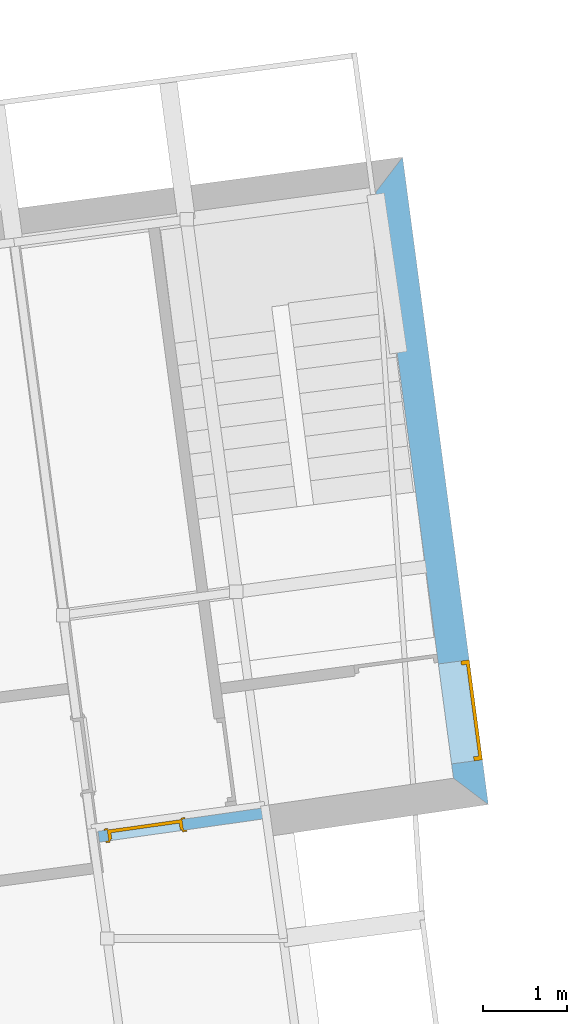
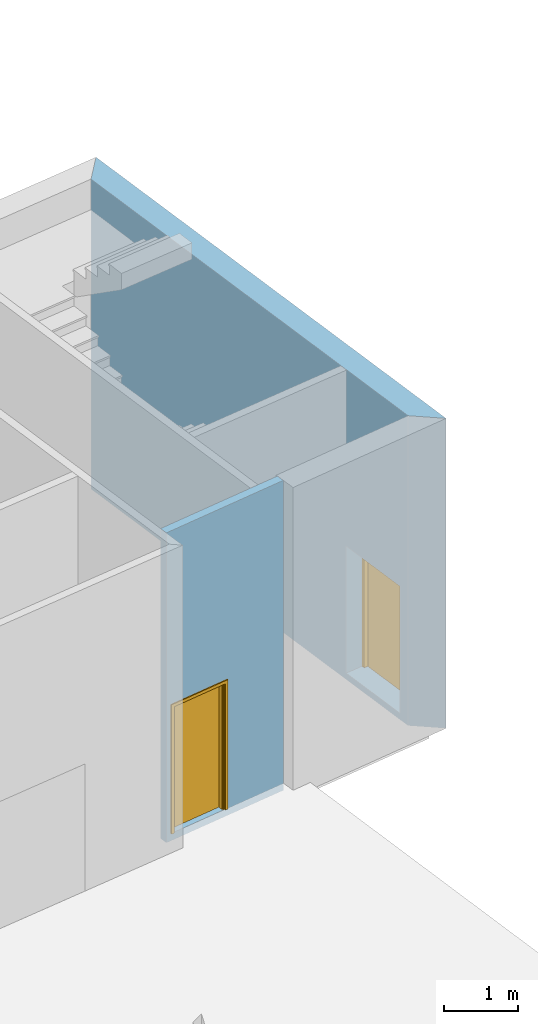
# One storey, part 35 of 40: 2 doors, 2 openings, plus 2 elements that do not belong to this part.
"""IFC2X3 building model written with IfcOpenShell, lengths in metres."""

from ifc_helpers import new_model, entity, si_unit, converted_unit, money_unit, direction, frame, origin_with_axes, origin_2d_with_axis, place, context, subcontext, project, spatial, polyline, rectangle, outline, extrude, faceted_brep, source, transform, mapped, material, material_list, layer, layer_set, layer_usage, type_object, element, fill, save


model = new_model("IFC2X3")

# Units and contexts
model_context = context("Model", 3, precision=1e-05, world=origin_with_axes(), true_north=direction((0.0, 1.0)))
body_context = subcontext(model_context, "Body", "Model", "MODEL_VIEW")
ifc_project = project(units=[si_unit("LENGTHUNIT", "METRE"), si_unit("AREAUNIT", "SQUARE_METRE"), si_unit("VOLUMEUNIT", "CUBIC_METRE"), converted_unit("PLANEANGLEUNIT", "DEGREE", entity("IfcPlaneAngleMeasure", 0.0174532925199), si_unit("PLANEANGLEUNIT", "RADIAN"), dimensions=[0, 0, 0, 0, 0, 0, 0]), si_unit("SOLIDANGLEUNIT", "STERADIAN"), money_unit("EUR"), converted_unit("TIMEUNIT", "Year", entity("IfcTimeMeasure", 31556926.0), si_unit("TIMEUNIT", "SECOND"), dimensions=[0, 0, 0, 0, 0, 0, 0]), si_unit("MASSUNIT", "GRAM"), si_unit("THERMODYNAMICTEMPERATUREUNIT", "DEGREE_CELSIUS"), si_unit("LUMINOUSINTENSITYUNIT", "LUMEN")], contexts=[model_context])

# Site, building, storey
site_placement = place(None, origin_with_axes())
site = spatial("IfcSite", under=ifc_project, at=site_placement, Name="Undefined", CompositionType="ELEMENT")
building_placement = place(site_placement, origin_with_axes())
building = spatial("IfcBuilding", under=site, at=building_placement, Name="Undefined", CompositionType="ELEMENT")
storey_placement = place(building_placement, origin_with_axes())
storey = spatial("IfcBuildingStorey", under=building, at=storey_placement, Name="Rez de chauss\x8ee", CompositionType="ELEMENT", Elevation=0.0)

# Wall, opening, door
ifc_material_1 = material(Name="Finition int - Enduit pl\x89tre")
ifc_layer_1 = layer(ifc_material_1, 0.015, ventilated="UNKNOWN")
ifc_material_2 = material(Name="Struct. - Parpaing b\x8eton")
ifc_layer_2 = layer(ifc_material_2, 0.1, ventilated="UNKNOWN")
ifc_layer_3 = layer(ifc_material_1, 0.015, ventilated="UNKNOWN")
ifc_layer_set_1 = layer_set([ifc_layer_1, ifc_layer_2, ifc_layer_3], Name="0.0-Cloison: parpaing + pl\x89tre 2 faces copie")
ifc_layer_usage_1 = layer_usage(ifc_layer_set_1, "AXIS2", "NEGATIVE", 0.065)
wall_type_1 = type_object("IfcWallType", Name="0.0-Cloison: parpaing + pl\x89tre 2 faces copie 130", PredefinedType="NOTDEFINED")
wall_1_placement = place(storey_placement, frame((65.7020913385, 20.0943082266, 0.0), z_axis=(0.0, 0.0, 1.0), x_axis=(-0.990097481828, -0.140381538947, 0.0)))
wall_1 = element("IfcWallStandardCase", 1, at=wall_1_placement, inside=storey, type_object=wall_type_1, material=ifc_layer_usage_1, Name="Wall_Int_06", context=body_context, shape_type="SweptSolid", body=[
    extrude(outline(polyline([(0.0, -0.065), (2.00739739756, -0.065), (2.00858857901, 0.065), (0.0, 0.065), (0.0, -0.065)])), origin_with_axes(), (0.0, 0.0, 1.0), 5.12),
])
opening_1_placement = place(wall_1_placement, frame((1.44758118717, 0.0, 0.12), z_axis=(0.0, 0.0, 1.0), x_axis=(1.0, 0.0, 0.0)))
opening_1 = element("IfcOpeningElement", 2, at=opening_1_placement, cuts=wall_1, Name="DOOR_1000", context=body_context, shape_type="SweptSolid", body=[
    extrude(rectangle(XDim=0.9, YDim=2.1, at=origin_2d_with_axis()), frame((0.0, 0.13, 1.05), z_axis=(0.0, -1.0, 0.0), x_axis=(-1.0, 0.0, 0.0)), (0.0, 0.0, 1.0), 0.39),
    extrude(rectangle(XDim=0.974, YDim=2.137, at=origin_2d_with_axis()), frame((0.0, 0.195, 1.0685), z_axis=(0.0, -1.0, 0.0), x_axis=(-1.0, 0.0, 0.0)), (0.0, 0.0, 1.0), 0.13),
    extrude(rectangle(XDim=0.974, YDim=2.137, at=origin_2d_with_axis()), frame((0.0, -0.195, 1.0685), z_axis=(0.0, 1.0, 0.0), x_axis=(-1.0, 0.0, 0.0)), (0.0, 0.0, 1.0), 0.13),
])
ifc_material_3 = material(Name="Background Fill-International")
ifc_material_4 = material(Name="Air Space")
ifc_material_5 = material(Name="Foreground Fill-International")
ifc_material_6 = material(Name="07 | Insulation Rigid")
ifc_material_list_1 = material_list([ifc_material_3, ifc_material_4, ifc_material_5, ifc_material_3, ifc_material_3, ifc_material_3, ifc_material_3, ifc_material_6, ifc_material_3, ifc_material_3, ifc_material_3, ifc_material_3, ifc_material_4, ifc_material_3, ifc_material_3, ifc_material_3])
door_style_1 = type_object("IfcDoorStyle", Name="Porte 18", ConstructionType="NOTDEFINED", OperationType="SINGLE_SWING_RIGHT", ParameterTakesPrecedence=False, Sizeable=False)
shared_shape_1 = source(origin_with_axes(), body_context, "Body", "Brep", [
    faceted_brep([(-0.45, -0.115, 0.0), (-0.425, -0.115, 0.0), (-0.425, -0.13, 0.0), (-0.45, -0.13, 0.0), (-0.45, -0.115, 2.1), (-0.425, -0.115, 2.075), (-0.425, -0.13, 2.075), (-0.45, -0.13, 2.1)], [[[0, 1, 2, 3]], [[0, 4, 5, 1]], [[1, 5, 6, 2]], [[3, 2, 6, 7]], [[4, 0, 3, 7]], [[5, 4, 7, 6]]]),
    faceted_brep([(0.45, -0.115, 2.1), (0.425, -0.115, 2.075), (0.425, -0.13, 2.075), (0.45, -0.13, 2.1), (0.45, -0.115, 0.0), (0.425, -0.115, 0.0), (0.425, -0.13, 0.0), (0.45, -0.13, 0.0)], [[[0, 1, 2, 3]], [[0, 4, 5, 1]], [[1, 5, 6, 2]], [[3, 2, 6, 7]], [[4, 0, 3, 7]], [[5, 4, 7, 6]]]),
    faceted_brep([(-0.425, -0.115, 2.075), (0.425, -0.115, 2.075), (0.425, -0.13, 2.075), (-0.425, -0.13, 2.075), (-0.45, -0.115, 2.1), (0.45, -0.115, 2.1), (0.45, -0.13, 2.1), (-0.45, -0.13, 2.1)], [[[0, 1, 2, 3]], [[0, 4, 5, 1]], [[1, 5, 6, 2]], [[3, 2, 6, 7]], [[4, 0, 3, 7]], [[5, 4, 7, 6]]]),
    faceted_brep([(-0.487, -0.149, 0.0), (-0.487, -0.13, 0.0), (-0.437, -0.13, 0.0), (-0.437, -0.149, 0.0), (-0.487, -0.149, 2.137), (-0.487, -0.13, 2.137), (-0.437, -0.13, 2.087), (-0.437, -0.149, 2.087)], [[[0, 1, 2, 3]], [[4, 5, 1, 0]], [[1, 5, 6, 2]], [[3, 2, 6, 7]], [[0, 3, 7, 4]], [[7, 6, 5, 4]]]),
    faceted_brep([(0.487, -0.149, 2.137), (0.487, -0.13, 2.137), (0.437, -0.13, 2.087), (0.437, -0.149, 2.087), (0.487, -0.149, 0.0), (0.487, -0.13, 0.0), (0.437, -0.13, 0.0), (0.437, -0.149, 0.0)], [[[0, 1, 2, 3]], [[4, 5, 1, 0]], [[1, 5, 6, 2]], [[3, 2, 6, 7]], [[0, 3, 7, 4]], [[7, 6, 5, 4]]]),
    faceted_brep([(-0.487, -0.149, 2.137), (-0.487, -0.13, 2.137), (-0.437, -0.13, 2.087), (-0.437, -0.149, 2.087), (0.487, -0.149, 2.137), (0.487, -0.13, 2.137), (0.437, -0.13, 2.087), (0.437, -0.149, 2.087)], [[[0, 1, 2, 3]], [[4, 5, 1, 0]], [[1, 5, 6, 2]], [[3, 2, 6, 7]], [[0, 3, 7, 4]], [[7, 6, 5, 4]]]),
    faceted_brep([(-0.487, 0.019, 0.0), (-0.437, 0.019, 0.0), (-0.437, 0.0, 0.0), (-0.487, 0.0, 0.0), (-0.487, 0.019, 2.137), (-0.437, 0.019, 2.087), (-0.437, 0.0, 2.087), (-0.487, 0.0, 2.137)], [[[0, 1, 2, 3]], [[0, 4, 5, 1]], [[1, 5, 6, 2]], [[3, 2, 6, 7]], [[4, 0, 3, 7]], [[5, 4, 7, 6]]]),
    faceted_brep([(0.487, 0.019, 2.137), (0.437, 0.019, 2.087), (0.437, 0.0, 2.087), (0.487, 0.0, 2.137), (0.487, 0.019, 0.0), (0.437, 0.019, 0.0), (0.437, 0.0, 0.0), (0.487, 0.0, 0.0)], [[[0, 1, 2, 3]], [[0, 4, 5, 1]], [[1, 5, 6, 2]], [[3, 2, 6, 7]], [[4, 0, 3, 7]], [[5, 4, 7, 6]]]),
    faceted_brep([(-0.487, 0.019, 2.137), (-0.437, 0.019, 2.087), (-0.437, 0.0, 2.087), (-0.487, 0.0, 2.137), (0.487, 0.019, 2.137), (0.437, 0.019, 2.087), (0.437, 0.0, 2.087), (0.487, 0.0, 2.137)], [[[0, 1, 2, 3]], [[0, 4, 5, 1]], [[1, 5, 6, 2]], [[3, 2, 6, 7]], [[4, 0, 3, 7]], [[5, 4, 7, 6]]]),
    faceted_brep([(-0.41, -0.04, 0.0), (-0.41, -0.04, 2.06), (-0.41, -0.115, 2.06), (-0.41, -0.115, 0.0), (-0.422, -0.04, 2.06), (-0.422, -0.04, 0.0), (-0.422, 0.0, 2.06), (-0.45, 0.0, 2.06), (-0.45, -0.115, 2.06), (-0.45, -0.115, 0.0), (-0.45, 0.0, 0.0), (-0.422, 0.0, 0.0)], [[[0, 1, 2, 3]], [[4, 1, 0, 5]], [[4, 6, 7, 8, 2, 1]], [[8, 9, 3, 2]], [[5, 0, 3, 9, 10, 11]], [[6, 4, 5, 11]], [[6, 11, 10, 7]], [[8, 7, 10, 9]]]),
    faceted_brep([(0.422, -0.04, 2.06), (0.41, -0.04, 2.06), (0.41, -0.115, 2.06), (0.45, -0.115, 2.06), (0.45, 0.0, 2.06), (0.422, 0.0, 2.06), (0.422, -0.04, 0.0), (0.41, -0.04, 0.0), (0.41, -0.115, 0.0), (0.45, -0.115, 0.0), (0.45, 0.0, 0.0), (0.422, 0.0, 0.0)], [[[0, 1, 2, 3, 4, 5]], [[1, 0, 6, 7]], [[1, 7, 8, 2]], [[8, 9, 3, 2]], [[9, 10, 4, 3]], [[11, 5, 4, 10]], [[0, 5, 11, 6]], [[6, 11, 10, 9, 8, 7]]]),
    faceted_brep([(-0.422, 0.0, 2.072), (-0.422, 0.0, 2.06), (-0.45, 0.0, 2.06), (-0.45, 0.0, 2.1), (0.45, 0.0, 2.1), (0.45, 0.0, 2.06), (0.422, 0.0, 2.06), (0.422, 0.0, 2.072), (-0.422, -0.04, 2.072), (-0.422, -0.04, 2.06), (-0.41, -0.04, 2.06), (-0.41, -0.115, 2.06), (-0.45, -0.115, 2.06), (-0.45, -0.115, 2.1), (0.45, -0.115, 2.1), (0.45, -0.115, 2.06), (0.422, -0.04, 2.06), (0.41, -0.115, 2.06), (0.41, -0.04, 2.06), (0.422, -0.04, 2.072)], [[[0, 1, 2, 3, 4, 5, 6, 7]], [[1, 0, 8, 9]], [[9, 10, 11, 12, 2, 1]], [[13, 3, 2, 12]], [[14, 4, 3, 13]], [[15, 5, 4, 14]], [[16, 6, 5, 15, 17, 18]], [[7, 6, 16, 19]], [[0, 7, 19, 8]], [[16, 18, 10, 9, 8, 19]], [[10, 18, 17, 11]], [[14, 13, 12, 11, 17, 15]]]),
    faceted_brep([(0.422, 0.0, 0.0), (0.422, -0.04, 0.0), (-0.422, -0.04, 0.0), (-0.422, 0.0, 0.0), (0.422, 0.0, 2.072), (0.422, -0.04, 2.072), (-0.422, -0.04, 2.072), (-0.422, 0.0, 2.072)], [[[0, 1, 2, 3]], [[4, 5, 1, 0]], [[1, 5, 6, 2]], [[3, 2, 6, 7]], [[0, 3, 7, 4]], [[7, 6, 5, 4]]]),
])
door_1_placement = place(opening_1_placement, frame((0.45, 0.0, 0.0), z_axis=(0.0, 0.0, 1.0), x_axis=(-1.0, 0.0, 0.0)))
door_1 = element("IfcDoor", 3, at=door_1_placement, inside=storey, type_object=door_style_1, material=ifc_material_list_1, Name="DOOR_1000", ObjectType="DOOR", OverallHeight=2.1, OverallWidth=0.9, context=body_context, shape_type="MappedRepresentation", body=[
    mapped(shared_shape_1, transform((0.45, 0.065, 0.0))),
])
fill(opening_1, door_1)

ifc_material_7 = material(Name="Finition ext - Cr\x8epis")
ifc_layer_4 = layer(ifc_material_7, 0.015, ventilated="UNKNOWN")
ifc_material_8 = material(Name="Isolation - Fibres de bois")
ifc_layer_5 = layer(ifc_material_8, 0.16, ventilated="UNKNOWN")
ifc_material_9 = material(Name="Struct. - B.A. banch\x8e")
ifc_layer_6 = layer(ifc_material_9, 0.18, ventilated="UNKNOWN")
ifc_layer_7 = layer(ifc_material_1, 0.015, ventilated="UNKNOWN")
ifc_layer_set_2 = layer_set([ifc_layer_4, ifc_layer_5, ifc_layer_6, ifc_layer_7], Name="1.2-Mur ext: rev\x8et ext + isol ext + ma\x8donnerie + enduit")
ifc_layer_usage_2 = layer_usage(ifc_layer_set_2, "AXIS2", "POSITIVE", 0.0)
wall_type_2 = type_object("IfcWallType", Name="1.2-Mur ext: rev\x8et ext + isol ext + ma\x8donnerie + enduit 370", PredefinedType="NOTDEFINED")
wall_2_placement = place(storey_placement, frame((68.3507482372, 20.1953635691, 0.0), z_axis=(0.0, 0.0, 1.0), x_axis=(-0.131283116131, 0.991344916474, 0.0)))
wall_2 = element("IfcWallStandardCase", 4, at=wall_2_placement, inside=storey, type_object=wall_type_2, material=ifc_layer_usage_2, Name="ExtWall_01", ObjectType="WALL", context=body_context, shape_type="SweptSolid", body=[
    extrude(outline(polyline([(0.0, 0.0), (7.77319047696, 0.0), (7.4030247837, 0.37), (0.365474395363, 0.37), (0.0, 0.0)])), origin_with_axes(), (0.0, 0.0, 1.0), 5.12),
])
opening_2_placement = place(wall_2_placement, frame((1.13701476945, 0.0, 0.105), z_axis=(0.0, 0.0, 1.0), x_axis=(1.0, 0.0, 0.0)))
opening_2 = element("IfcOpeningElement", 5, at=opening_2_placement, cuts=wall_2, Name="DOOR", context=body_context, shape_type="SweptSolid", body=[
    extrude(rectangle(XDim=1.2, YDim=2.1, at=origin_2d_with_axis()), frame((0.0, -0.37, 1.05), z_axis=(0.0, 1.0, 0.0), x_axis=(1.0, 0.0, 0.0)), (0.0, 0.0, 1.0), 0.37),
    extrude(rectangle(XDim=1.2, YDim=2.1, at=origin_2d_with_axis()), frame((0.0, 0.37, 1.05), z_axis=(0.0, -1.0, 0.0), x_axis=(1.0, 0.0, 0.0)), (0.0, 0.0, 1.0), 0.37),
])
ifc_material_list_2 = material_list([ifc_material_3, ifc_material_4])
door_style_2 = type_object("IfcDoorStyle", Name="IFC Porte - Simple battant", ConstructionType="NOTDEFINED", OperationType="SINGLE_SWING_RIGHT", ParameterTakesPrecedence=True, Sizeable=False)
shared_shape_2 = source(origin_with_axes(), body_context, "Body", "Brep", [
    faceted_brep([(-0.6, 0.0, 0.0), (-0.55, 0.0, 0.0), (-0.55, -0.1, 0.0), (-0.6, -0.1, 0.0), (-0.6, 0.0, 2.1), (0.6, 0.0, 2.1), (0.6, 0.0, 0.0), (0.55, 0.0, 0.0), (0.55, 0.0, 2.05), (-0.55, 0.0, 2.05), (-0.55, -0.1, 2.05), (0.55, -0.1, 2.05), (0.55, -0.1, 0.0), (0.6, -0.1, 0.0), (0.6, -0.1, 2.1), (-0.6, -0.1, 2.1)], [[[0, 1, 2, 3]], [[0, 4, 5, 6, 7, 8, 9, 1]], [[1, 9, 10, 2]], [[3, 2, 10, 11, 12, 13, 14, 15]], [[4, 0, 3, 15]], [[5, 4, 15, 14]], [[6, 5, 14, 13]], [[7, 6, 13, 12]], [[8, 7, 12, 11]], [[9, 8, 11, 10]]]),
    faceted_brep([(0.55, 0.0, 0.0), (0.55, 0.0, 2.05), (0.55, -0.04, 2.05), (0.55, -0.04, 0.0), (-0.55, 0.0, 0.0), (-0.55, 0.0, 2.05), (-0.55, -0.04, 2.05), (-0.55, -0.04, 0.0)], [[[0, 1, 2, 3]], [[0, 4, 5, 1]], [[1, 5, 6, 2]], [[3, 2, 6, 7]], [[4, 0, 3, 7]], [[5, 4, 7, 6]]]),
])
door_2_placement = place(opening_2_placement, frame((0.6, 0.0, 0.0), z_axis=(0.0, 0.0, 1.0), x_axis=(-1.0, 0.0, 0.0)))
door_2 = element("IfcDoor", 6, at=door_2_placement, inside=storey, type_object=door_style_2, material=ifc_material_list_2, Name="DOOR", ObjectType="DOOR", OverallHeight=2.1, OverallWidth=1.2, context=body_context, shape_type="MappedRepresentation", body=[
    mapped(shared_shape_2, transform((0.6, 0.0, 0.0))),
])
fill(opening_2, door_2)

save(model, "model.ifc")
